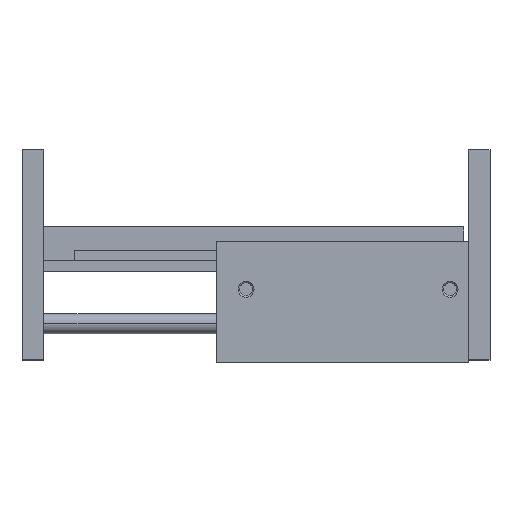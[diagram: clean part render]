
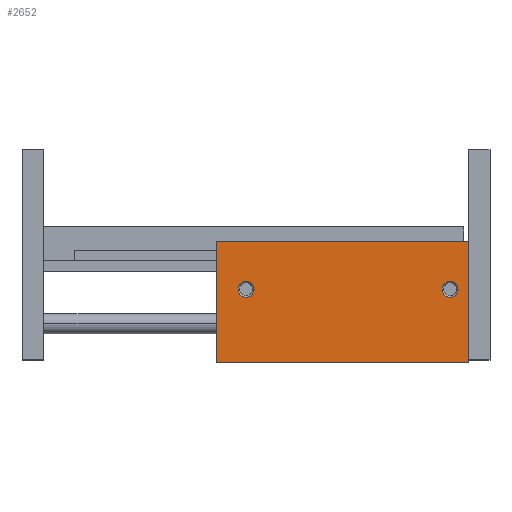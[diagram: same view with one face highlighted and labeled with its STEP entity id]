
A CAD part, top view. The second image highlights one B-rep face of the part: STEP entity #2652.
In plain terms, the highlighted planar face has unit normal (0, 0, 1) as drawn and (0, 0, -1) by its records, which use the part's own axes.
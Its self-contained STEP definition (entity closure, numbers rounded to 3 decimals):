
#176 = DIRECTION ( 'NONE',  ( 0., 1., 0. ) ) ;
#328 = CARTESIAN_POINT ( 'NONE',  ( 76.2, 18.161, -13.487 ) ) ;
#419 = EDGE_CURVE ( 'NONE', #3763, #7970, #6641, .T. ) ;
#590 = DIRECTION ( 'NONE',  ( 1., 0., 0. ) ) ;
#784 = DIRECTION ( 'NONE',  ( 0., 0., 1. ) ) ;
#796 = FACE_BOUND ( 'NONE', #3281, .T. ) ;
#983 = CIRCLE ( 'NONE', #4490, 2.413 ) ;
#1160 = CIRCLE ( 'NONE', #2649, 2.413 ) ;
#1236 = AXIS2_PLACEMENT_3D ( 'NONE', #3706, #5244, #590 ) ;
#1436 = CARTESIAN_POINT ( 'NONE',  ( 76.2, -18.161, -13.487 ) ) ;
#1448 = VECTOR ( 'NONE', #6504, 1000. ) ;
#1473 = ORIENTED_EDGE ( 'NONE', *, *, #8263, .T. ) ;
#2327 = VECTOR ( 'NONE', #9532, 1000. ) ;
#2431 = EDGE_LOOP ( 'NONE', ( #5236, #6020 ) ) ;
#2566 = ORIENTED_EDGE ( 'NONE', *, *, #4240, .T. ) ;
#2593 = CARTESIAN_POINT ( 'NONE',  ( 0., -18.161, -13.487 ) ) ;
#2649 = AXIS2_PLACEMENT_3D ( 'NONE', #8081, #3516, #8837 ) ;
#2652 = ADVANCED_FACE ( 'NONE', ( #796, #4941, #2913 ), #3679, .F. ) ;
#2889 = EDGE_CURVE ( 'NONE', #8040, #7862, #1160, .T. ) ;
#2913 = FACE_BOUND ( 'NONE', #2431, .T. ) ;
#3063 = DIRECTION ( 'NONE',  ( 0., 0., 1. ) ) ;
#3185 = VERTEX_POINT ( 'NONE', #2593 ) ;
#3281 = EDGE_LOOP ( 'NONE', ( #2566, #9086 ) ) ;
#3516 = DIRECTION ( 'NONE',  ( 0., 0., 1. ) ) ;
#3679 = PLANE ( 'NONE',  #1236 ) ;
#3706 = CARTESIAN_POINT ( 'NONE',  ( 76.2, -18.161, -13.487 ) ) ;
#3763 = VERTEX_POINT ( 'NONE', #6325 ) ;
#3800 = EDGE_LOOP ( 'NONE', ( #5109, #5753, #5797, #1473 ) ) ;
#3811 = DIRECTION ( 'NONE',  ( -1., 0., 0. ) ) ;
#4058 = VECTOR ( 'NONE', #3811, 1000. ) ;
#4207 = CARTESIAN_POINT ( 'NONE',  ( 67.31, 3.886, -13.487 ) ) ;
#4240 = EDGE_CURVE ( 'NONE', #7862, #8040, #7748, .T. ) ;
#4244 = CARTESIAN_POINT ( 'NONE',  ( 76.2, -18.161, -13.487 ) ) ;
#4490 = AXIS2_PLACEMENT_3D ( 'NONE', #5432, #784, #6190 ) ;
#4941 = FACE_OUTER_BOUND ( 'NONE', #3800, .T. ) ;
#4961 = AXIS2_PLACEMENT_3D ( 'NONE', #7629, #3063, #8396 ) ;
#4967 = DIRECTION ( 'NONE',  ( 1., 0., 0. ) ) ;
#5109 = ORIENTED_EDGE ( 'NONE', *, *, #8510, .T. ) ;
#5130 = CARTESIAN_POINT ( 'NONE',  ( 3.302, 3.886, -13.487 ) ) ;
#5236 = ORIENTED_EDGE ( 'NONE', *, *, #419, .T. ) ;
#5244 = DIRECTION ( 'NONE',  ( 0., 0., 1. ) ) ;
#5432 = CARTESIAN_POINT ( 'NONE',  ( 67.31, 3.886, -13.487 ) ) ;
#5593 = CARTESIAN_POINT ( 'NONE',  ( 0., -18.161, -13.487 ) ) ;
#5753 = ORIENTED_EDGE ( 'NONE', *, *, #9729, .F. ) ;
#5797 = ORIENTED_EDGE ( 'NONE', *, *, #8977, .F. ) ;
#6020 = ORIENTED_EDGE ( 'NONE', *, *, #8359, .T. ) ;
#6190 = DIRECTION ( 'NONE',  ( 1., 0., 0. ) ) ;
#6325 = CARTESIAN_POINT ( 'NONE',  ( 64.897, 3.886, -13.487 ) ) ;
#6409 = LINE ( 'NONE', #4244, #2327 ) ;
#6504 = DIRECTION ( 'NONE',  ( -1., 0., 0. ) ) ;
#6641 = CIRCLE ( 'NONE', #7422, 2.413 ) ;
#6794 = VERTEX_POINT ( 'NONE', #9401 ) ;
#7382 = VERTEX_POINT ( 'NONE', #8579 ) ;
#7422 = AXIS2_PLACEMENT_3D ( 'NONE', #4207, #9500, #4967 ) ;
#7501 = VERTEX_POINT ( 'NONE', #9843 ) ;
#7596 = LINE ( 'NONE', #328, #1448 ) ;
#7629 = CARTESIAN_POINT ( 'NONE',  ( 5.715, 3.886, -13.487 ) ) ;
#7727 = VECTOR ( 'NONE', #176, 1000. ) ;
#7748 = CIRCLE ( 'NONE', #4961, 2.413 ) ;
#7862 = VERTEX_POINT ( 'NONE', #5130 ) ;
#7970 = VERTEX_POINT ( 'NONE', #8254 ) ;
#7972 = LINE ( 'NONE', #5593, #7727 ) ;
#8040 = VERTEX_POINT ( 'NONE', #8379 ) ;
#8081 = CARTESIAN_POINT ( 'NONE',  ( 5.715, 3.886, -13.487 ) ) ;
#8104 = LINE ( 'NONE', #1436, #4058 ) ;
#8254 = CARTESIAN_POINT ( 'NONE',  ( 69.723, 3.886, -13.487 ) ) ;
#8263 = EDGE_CURVE ( 'NONE', #7501, #3185, #8104, .T. ) ;
#8359 = EDGE_CURVE ( 'NONE', #7970, #3763, #983, .T. ) ;
#8379 = CARTESIAN_POINT ( 'NONE',  ( 8.128, 3.886, -13.487 ) ) ;
#8396 = DIRECTION ( 'NONE',  ( 1., 0., 0. ) ) ;
#8510 = EDGE_CURVE ( 'NONE', #3185, #7382, #7972, .T. ) ;
#8579 = CARTESIAN_POINT ( 'NONE',  ( 0., 18.161, -13.487 ) ) ;
#8837 = DIRECTION ( 'NONE',  ( 1., 0., 0. ) ) ;
#8977 = EDGE_CURVE ( 'NONE', #7501, #6794, #6409, .T. ) ;
#9086 = ORIENTED_EDGE ( 'NONE', *, *, #2889, .T. ) ;
#9401 = CARTESIAN_POINT ( 'NONE',  ( 76.2, 18.161, -13.487 ) ) ;
#9500 = DIRECTION ( 'NONE',  ( 0., 0., 1. ) ) ;
#9532 = DIRECTION ( 'NONE',  ( 0., 1., 0. ) ) ;
#9729 = EDGE_CURVE ( 'NONE', #6794, #7382, #7596, .T. ) ;
#9843 = CARTESIAN_POINT ( 'NONE',  ( 76.2, -18.161, -13.487 ) ) ;
